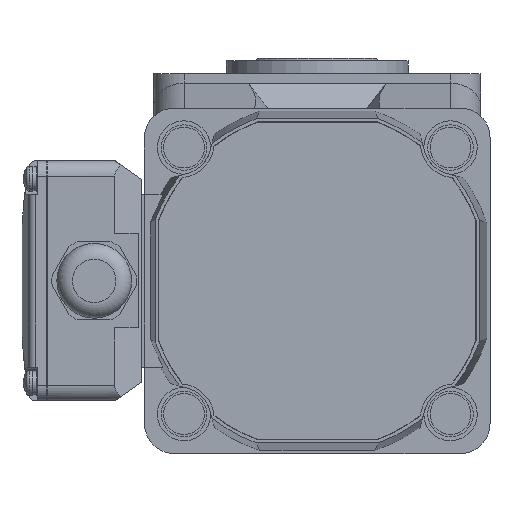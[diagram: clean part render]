
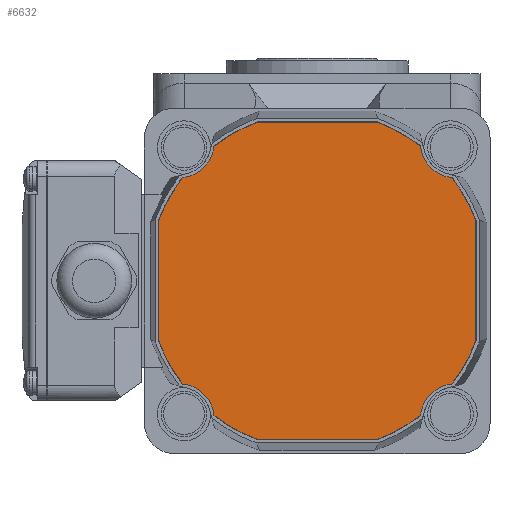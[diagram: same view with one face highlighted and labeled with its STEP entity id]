
A CAD part, left-side view. The second image highlights one B-rep face of the part: STEP entity #6632.
In plain terms, the highlighted planar face has unit normal (-1, 0, 0) as drawn and (1, 0, 0) by its records, which use the part's own axes.
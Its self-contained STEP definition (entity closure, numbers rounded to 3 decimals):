
#564=CIRCLE('',#7261,54.);
#565=CIRCLE('',#7262,11.);
#566=CIRCLE('',#7263,54.);
#567=CIRCLE('',#7265,54.);
#568=CIRCLE('',#7266,11.);
#569=CIRCLE('',#7267,54.);
#570=CIRCLE('',#7269,54.);
#571=CIRCLE('',#7270,11.);
#572=CIRCLE('',#7271,54.);
#573=CIRCLE('',#7273,54.);
#574=CIRCLE('',#7274,11.);
#575=CIRCLE('',#7275,54.);
#1830=ORIENTED_EDGE('',*,*,#3165,.T.);
#1831=ORIENTED_EDGE('',*,*,#3196,.T.);
#1832=ORIENTED_EDGE('',*,*,#3194,.T.);
#1833=ORIENTED_EDGE('',*,*,#3192,.T.);
#1834=ORIENTED_EDGE('',*,*,#3190,.T.);
#1835=ORIENTED_EDGE('',*,*,#3188,.T.);
#1836=ORIENTED_EDGE('',*,*,#3186,.T.);
#1837=ORIENTED_EDGE('',*,*,#3184,.T.);
#1838=ORIENTED_EDGE('',*,*,#3182,.T.);
#1839=ORIENTED_EDGE('',*,*,#3180,.T.);
#1840=ORIENTED_EDGE('',*,*,#3178,.T.);
#1841=ORIENTED_EDGE('',*,*,#3176,.T.);
#1842=ORIENTED_EDGE('',*,*,#3174,.T.);
#1843=ORIENTED_EDGE('',*,*,#3172,.T.);
#1844=ORIENTED_EDGE('',*,*,#3170,.T.);
#1845=ORIENTED_EDGE('',*,*,#3168,.T.);
#3165=EDGE_CURVE('',#3955,#3956,#4497,.T.);
#3168=EDGE_CURVE('',#3957,#3955,#564,.T.);
#3170=EDGE_CURVE('',#3958,#3957,#565,.F.);
#3172=EDGE_CURVE('',#3959,#3958,#566,.T.);
#3174=EDGE_CURVE('',#3960,#3959,#4503,.T.);
#3176=EDGE_CURVE('',#3961,#3960,#567,.T.);
#3178=EDGE_CURVE('',#3962,#3961,#568,.F.);
#3180=EDGE_CURVE('',#3963,#3962,#569,.T.);
#3182=EDGE_CURVE('',#3964,#3963,#4508,.T.);
#3184=EDGE_CURVE('',#3965,#3964,#570,.T.);
#3186=EDGE_CURVE('',#3966,#3965,#571,.F.);
#3188=EDGE_CURVE('',#3967,#3966,#572,.T.);
#3190=EDGE_CURVE('',#3968,#3967,#4513,.T.);
#3192=EDGE_CURVE('',#3969,#3968,#573,.T.);
#3194=EDGE_CURVE('',#3970,#3969,#574,.F.);
#3196=EDGE_CURVE('',#3956,#3970,#575,.T.);
#3955=VERTEX_POINT('',#11168);
#3956=VERTEX_POINT('',#11169);
#3957=VERTEX_POINT('',#11181);
#3958=VERTEX_POINT('',#11196);
#3959=VERTEX_POINT('',#11207);
#3960=VERTEX_POINT('',#11211);
#3961=VERTEX_POINT('',#11222);
#3962=VERTEX_POINT('',#11237);
#3963=VERTEX_POINT('',#11248);
#3964=VERTEX_POINT('',#11252);
#3965=VERTEX_POINT('',#11263);
#3966=VERTEX_POINT('',#11278);
#3967=VERTEX_POINT('',#11289);
#3968=VERTEX_POINT('',#11293);
#3969=VERTEX_POINT('',#11304);
#3970=VERTEX_POINT('',#11319);
#4497=LINE('',#11167,#4992);
#4503=LINE('',#11210,#4998);
#4508=LINE('',#11251,#5003);
#4513=LINE('',#11292,#5008);
#4992=VECTOR('',#8764,1000.);
#4998=VECTOR('',#8778,1000.);
#5003=VECTOR('',#8791,1000.);
#5008=VECTOR('',#8804,1000.);
#5482=EDGE_LOOP('',(#1830,#1831,#1832,#1833,#1834,#1835,#1836,#1837,#1838,
#1839,#1840,#1841,#1842,#1843,#1844,#1845));
#5999=FACE_BOUND('',#5482,.T.);
#6328=PLANE('',#7276);
#6632=ADVANCED_FACE('',(#5999),#6328,.T.);
#7261=AXIS2_PLACEMENT_3D('',#11180,#8767,#8768);
#7262=AXIS2_PLACEMENT_3D('',#11195,#8770,#8771);
#7263=AXIS2_PLACEMENT_3D('',#11206,#8773,#8774);
#7265=AXIS2_PLACEMENT_3D('',#11221,#8780,#8781);
#7266=AXIS2_PLACEMENT_3D('',#11236,#8783,#8784);
#7267=AXIS2_PLACEMENT_3D('',#11247,#8786,#8787);
#7269=AXIS2_PLACEMENT_3D('',#11262,#8793,#8794);
#7270=AXIS2_PLACEMENT_3D('',#11277,#8796,#8797);
#7271=AXIS2_PLACEMENT_3D('',#11288,#8799,#8800);
#7273=AXIS2_PLACEMENT_3D('',#11303,#8806,#8807);
#7274=AXIS2_PLACEMENT_3D('',#11318,#8809,#8810);
#7275=AXIS2_PLACEMENT_3D('',#11329,#8812,#8813);
#7276=AXIS2_PLACEMENT_3D('',#11330,#8814,#8815);
#8764=DIRECTION('',(0.,0.,1.));
#8767=DIRECTION('',(1.,0.,0.));
#8768=DIRECTION('',(0.,0.,-1.));
#8770=DIRECTION('',(1.,0.,0.));
#8771=DIRECTION('',(0.,0.,-1.));
#8773=DIRECTION('',(1.,0.,0.));
#8774=DIRECTION('',(0.,0.,-1.));
#8778=DIRECTION('',(0.,1.,0.));
#8780=DIRECTION('',(1.,0.,0.));
#8781=DIRECTION('',(0.,0.,-1.));
#8783=DIRECTION('',(1.,0.,0.));
#8784=DIRECTION('',(0.,0.,-1.));
#8786=DIRECTION('',(1.,0.,0.));
#8787=DIRECTION('',(0.,0.,-1.));
#8791=DIRECTION('',(0.,0.,-1.));
#8793=DIRECTION('',(1.,0.,0.));
#8794=DIRECTION('',(0.,0.,-1.));
#8796=DIRECTION('',(1.,0.,0.));
#8797=DIRECTION('',(0.,0.,-1.));
#8799=DIRECTION('',(1.,0.,0.));
#8800=DIRECTION('',(0.,0.,-1.));
#8804=DIRECTION('',(0.,-1.,0.));
#8806=DIRECTION('',(1.,0.,0.));
#8807=DIRECTION('',(0.,0.,-1.));
#8809=DIRECTION('',(1.,0.,0.));
#8810=DIRECTION('',(0.,0.,-1.));
#8812=DIRECTION('',(1.,0.,0.));
#8813=DIRECTION('',(0.,0.,-1.));
#8814=DIRECTION('',(1.,0.,0.));
#8815=DIRECTION('',(0.,0.,-1.));
#11167=CARTESIAN_POINT('',(157.,50.5,-19.125));
#11168=CARTESIAN_POINT('',(157.,50.5,-19.125));
#11169=CARTESIAN_POINT('',(157.,50.5,19.125));
#11180=CARTESIAN_POINT('',(157.,0.,0.));
#11181=CARTESIAN_POINT('',(157.,42.831,-32.886));
#11195=CARTESIAN_POINT('',(157.,43.84,-43.84));
#11196=CARTESIAN_POINT('',(157.,32.886,-42.831));
#11206=CARTESIAN_POINT('',(157.,0.,0.));
#11207=CARTESIAN_POINT('',(157.,19.125,-50.5));
#11210=CARTESIAN_POINT('',(157.,-19.125,-50.5));
#11211=CARTESIAN_POINT('',(157.,-19.125,-50.5));
#11221=CARTESIAN_POINT('',(157.,0.,0.));
#11222=CARTESIAN_POINT('',(157.,-32.886,-42.831));
#11236=CARTESIAN_POINT('',(157.,-43.84,-43.84));
#11237=CARTESIAN_POINT('',(157.,-42.831,-32.886));
#11247=CARTESIAN_POINT('',(157.,0.,0.));
#11248=CARTESIAN_POINT('',(157.,-50.5,-19.125));
#11251=CARTESIAN_POINT('',(157.,-50.5,19.125));
#11252=CARTESIAN_POINT('',(157.,-50.5,19.125));
#11262=CARTESIAN_POINT('',(157.,0.,0.));
#11263=CARTESIAN_POINT('',(157.,-42.831,32.886));
#11277=CARTESIAN_POINT('',(157.,-43.84,43.84));
#11278=CARTESIAN_POINT('',(157.,-32.886,42.831));
#11288=CARTESIAN_POINT('',(157.,0.,0.));
#11289=CARTESIAN_POINT('',(157.,-19.125,50.5));
#11292=CARTESIAN_POINT('',(157.,19.125,50.5));
#11293=CARTESIAN_POINT('',(157.,19.125,50.5));
#11303=CARTESIAN_POINT('',(157.,0.,0.));
#11304=CARTESIAN_POINT('',(157.,32.886,42.831));
#11318=CARTESIAN_POINT('',(157.,43.84,43.84));
#11319=CARTESIAN_POINT('',(157.,42.831,32.886));
#11329=CARTESIAN_POINT('',(157.,0.,0.));
#11330=CARTESIAN_POINT('',(157.,0.,0.));
